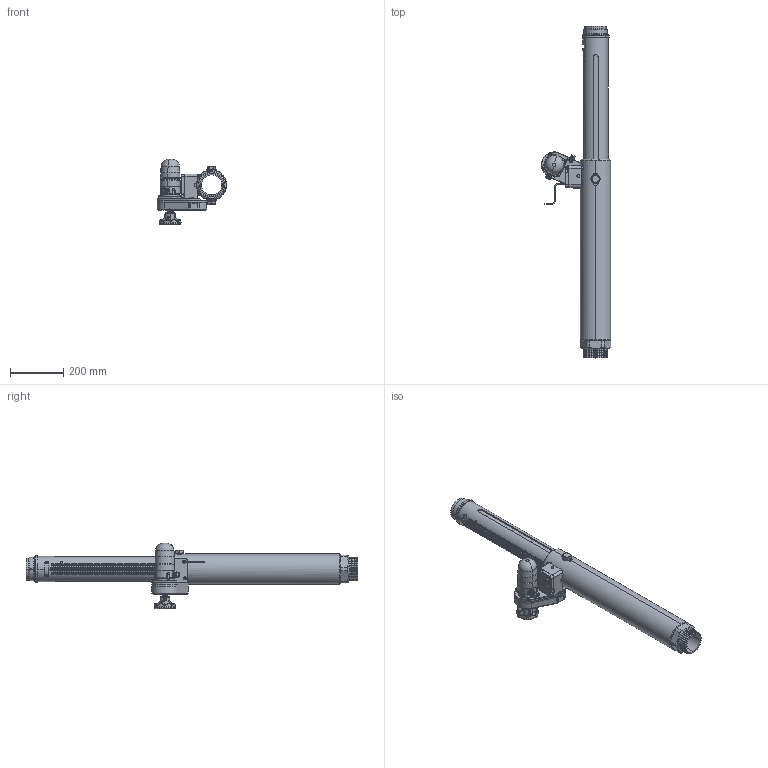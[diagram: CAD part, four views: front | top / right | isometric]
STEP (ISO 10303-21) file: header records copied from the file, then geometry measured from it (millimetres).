
FILE_DESCRIPTION (( 'STEP AP203' ), '1' );
FILE_NAME ('XGA38BL-RL_Extended.STEP', '2014-07-03T15:00:27', ( '' ), ( '' ), 'SwSTEP 2.0', 'SolidWorks 2014', '' );
FILE_SCHEMA (( 'CONFIG_CONTROL_DESIGN' ));
Length unit declared in the file: inch
Products named in the file (1): XGA38BL-RL_Extended
Bounding box: 261.22 x 1248.28 x 245.81 mm (x, y, z)
Surface area: 869782.5 mm2 (no closed solid volume)
Topology: 0 solids, 46 shells, 978 faces, 3426 edges, 2390 vertices
Faces by surface type: plane 427, cylinder 306, cone 128, torus 60, bspline 55, sphere 2
Entity records: 44252 total; most frequent: CARTESIAN_POINT 16974, ORIENTED_EDGE 5593, DIRECTION 5223, EDGE_CURVE 3420, VERTEX_POINT 2390, AXIS2_PLACEMENT_3D 1828, LINE 1567, VECTOR 1567
